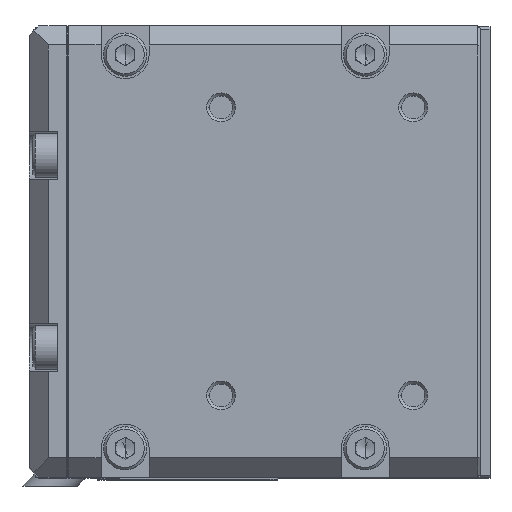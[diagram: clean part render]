
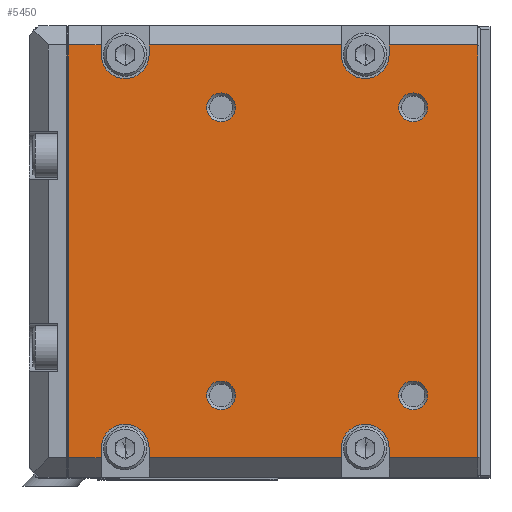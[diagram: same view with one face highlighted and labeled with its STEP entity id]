
A CAD part, top view. The second image highlights one B-rep face of the part: STEP entity #5450.
In plain terms, the highlighted planar face has unit normal (0, 0, 1).
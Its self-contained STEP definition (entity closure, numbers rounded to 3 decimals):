
#2330=CARTESIAN_POINT('',(42.7,-4.,50.2));
#2340=VERTEX_POINT('',#2330);
#2700=CARTESIAN_POINT('',(33.5,-4.,50.2));
#2710=VERTEX_POINT('',#2700);
#2740=CARTESIAN_POINT('',(33.5,-4.,50.2));
#2750=DIRECTION('',(1.,0.,0.));
#2760=VECTOR('',#2750,1.);
#2770=LINE('',#2740,#2760);
#2780=EDGE_CURVE('',#2710,#2340,#2770,.T.);
#3100=CARTESIAN_POINT('',(33.5,-3.,50.2));
#3110=VERTEX_POINT('',#3100);
#3140=CARTESIAN_POINT('',(33.5,-4.,50.2));
#3150=DIRECTION('',(0.,1.,0.));
#3160=VECTOR('',#3150,1.);
#3170=LINE('',#3140,#3160);
#3180=EDGE_CURVE('',#2710,#3110,#3170,.T.);
#3300=CARTESIAN_POINT('',(43.,0.,50.2));
#3310=DIRECTION('',(0.,0.,1.));
#3320=DIRECTION('',(-1.,0.,0.));
#3330=AXIS2_PLACEMENT_3D('',#3300,#3310,#3320);
#3340=PLANE('',#3330);
#3350=ORIENTED_EDGE('',*,*,#2780,.T.);
#3360=ORIENTED_EDGE('',*,*,#3180,.F.);
#3370=CARTESIAN_POINT('',(31.,-3.,50.2));
#3380=DIRECTION('',(-0.,0.,-1.));
#3390=DIRECTION('',(-1.,0.,0.));
#3400=AXIS2_PLACEMENT_3D('',#3370,#3380,#3390);
#3410=CIRCLE('',#3400,2.5);
#3420=CARTESIAN_POINT('',(28.5,-3.,50.2));
#3430=VERTEX_POINT('',#3420);
#3440=EDGE_CURVE('',#3430,#3110,#3410,.T.);
#3450=ORIENTED_EDGE('',*,*,#3440,.T.);
#3460=CARTESIAN_POINT('',(28.5,-3.,50.2));
#3470=DIRECTION('',(0.,-1.,0.));
#3480=VECTOR('',#3470,1.);
#3490=LINE('',#3460,#3480);
#3500=CARTESIAN_POINT('',(28.5,-4.,50.2));
#3510=VERTEX_POINT('',#3500);
#3520=EDGE_CURVE('',#3430,#3510,#3490,.T.);
#3530=ORIENTED_EDGE('',*,*,#3520,.F.);
#3540=CARTESIAN_POINT('',(8.5,-4.,50.2));
#3550=DIRECTION('',(1.,0.,0.));
#3560=VECTOR('',#3550,1.);
#3570=LINE('',#3540,#3560);
#3580=CARTESIAN_POINT('',(8.5,-4.,50.2));
#3590=VERTEX_POINT('',#3580);
#3600=EDGE_CURVE('',#3590,#3510,#3570,.T.);
#3610=ORIENTED_EDGE('',*,*,#3600,.T.);
#3620=CARTESIAN_POINT('',(8.5,-4.,50.2));
#3630=DIRECTION('',(0.,1.,0.));
#3640=VECTOR('',#3630,1.);
#3650=LINE('',#3620,#3640);
#3660=CARTESIAN_POINT('',(8.5,-3.,50.2));
#3670=VERTEX_POINT('',#3660);
#3680=EDGE_CURVE('',#3590,#3670,#3650,.T.);
#3690=ORIENTED_EDGE('',*,*,#3680,.F.);
#3700=CARTESIAN_POINT('',(6.,-3.,50.2));
#3710=DIRECTION('',(-0.,0.,-1.));
#3720=DIRECTION('',(-1.,0.,0.));
#3730=AXIS2_PLACEMENT_3D('',#3700,#3710,#3720);
#3740=CIRCLE('',#3730,2.5);
#3750=CARTESIAN_POINT('',(3.5,-3.,50.2));
#3760=VERTEX_POINT('',#3750);
#3770=EDGE_CURVE('',#3760,#3670,#3740,.T.);
#3780=ORIENTED_EDGE('',*,*,#3770,.T.);
#3790=CARTESIAN_POINT('',(3.5,-3.,50.2));
#3800=DIRECTION('',(0.,-1.,0.));
#3810=VECTOR('',#3800,1.);
#3820=LINE('',#3790,#3810);
#3830=CARTESIAN_POINT('',(3.5,-4.,50.2));
#3840=VERTEX_POINT('',#3830);
#3850=EDGE_CURVE('',#3760,#3840,#3820,.T.);
#3860=ORIENTED_EDGE('',*,*,#3850,.F.);
#3870=CARTESIAN_POINT('',(0.1,-4.,50.2));
#3880=DIRECTION('',(1.,0.,0.));
#3890=VECTOR('',#3880,1.);
#3900=LINE('',#3870,#3890);
#3910=CARTESIAN_POINT('',(0.1,-4.,50.2));
#3920=VERTEX_POINT('',#3910);
#3930=EDGE_CURVE('',#3920,#3840,#3900,.T.);
#3940=ORIENTED_EDGE('',*,*,#3930,.T.);
#3950=CARTESIAN_POINT('',(0.1,39.,50.2));
#3960=DIRECTION('',(0.,-1.,0.));
#3970=VECTOR('',#3960,1.);
#3980=LINE('',#3950,#3970);
#3990=CARTESIAN_POINT('',(0.1,39.,50.2));
#4000=VERTEX_POINT('',#3990);
#4010=EDGE_CURVE('',#4000,#3920,#3980,.T.);
#4020=ORIENTED_EDGE('',*,*,#4010,.T.);
#4030=CARTESIAN_POINT('',(3.5,39.,50.2));
#4040=DIRECTION('',(-1.,0.,0.));
#4050=VECTOR('',#4040,1.);
#4060=LINE('',#4030,#4050);
#4070=CARTESIAN_POINT('',(3.5,39.,50.2));
#4080=VERTEX_POINT('',#4070);
#4090=EDGE_CURVE('',#4080,#4000,#4060,.T.);
#4100=ORIENTED_EDGE('',*,*,#4090,.T.);
#4110=CARTESIAN_POINT('',(3.5,39.,50.2));
#4120=DIRECTION('',(0.,-1.,0.));
#4130=VECTOR('',#4120,1.);
#4140=LINE('',#4110,#4130);
#4150=CARTESIAN_POINT('',(3.5,38.,50.2));
#4160=VERTEX_POINT('',#4150);
#4170=EDGE_CURVE('',#4080,#4160,#4140,.T.);
#4180=ORIENTED_EDGE('',*,*,#4170,.F.);
#4190=CARTESIAN_POINT('',(6.,38.,50.2));
#4200=DIRECTION('',(0.,0.,-1.));
#4210=DIRECTION('',(1.,0.,0.));
#4220=AXIS2_PLACEMENT_3D('',#4190,#4200,#4210);
#4230=CIRCLE('',#4220,2.5);
#4240=CARTESIAN_POINT('',(8.5,38.,50.2));
#4250=VERTEX_POINT('',#4240);
#4260=EDGE_CURVE('',#4250,#4160,#4230,.T.);
#4270=ORIENTED_EDGE('',*,*,#4260,.T.);
#4280=CARTESIAN_POINT('',(8.5,38.,50.2));
#4290=DIRECTION('',(0.,1.,0.));
#4300=VECTOR('',#4290,1.);
#4310=LINE('',#4280,#4300);
#4320=CARTESIAN_POINT('',(8.5,39.,50.2));
#4330=VERTEX_POINT('',#4320);
#4340=EDGE_CURVE('',#4250,#4330,#4310,.T.);
#4350=ORIENTED_EDGE('',*,*,#4340,.F.);
#4360=CARTESIAN_POINT('',(28.5,39.,50.2));
#4370=DIRECTION('',(-1.,0.,0.));
#4380=VECTOR('',#4370,1.);
#4390=LINE('',#4360,#4380);
#4400=CARTESIAN_POINT('',(28.5,39.,50.2));
#4410=VERTEX_POINT('',#4400);
#4420=EDGE_CURVE('',#4410,#4330,#4390,.T.);
#4430=ORIENTED_EDGE('',*,*,#4420,.T.);
#4440=CARTESIAN_POINT('',(28.5,39.,50.2));
#4450=DIRECTION('',(0.,-1.,0.));
#4460=VECTOR('',#4450,1.);
#4470=LINE('',#4440,#4460);
#4480=CARTESIAN_POINT('',(28.5,38.,50.2));
#4490=VERTEX_POINT('',#4480);
#4500=EDGE_CURVE('',#4410,#4490,#4470,.T.);
#4510=ORIENTED_EDGE('',*,*,#4500,.F.);
#4520=CARTESIAN_POINT('',(31.,38.,50.2));
#4530=DIRECTION('',(0.,0.,-1.));
#4540=DIRECTION('',(1.,0.,0.));
#4550=AXIS2_PLACEMENT_3D('',#4520,#4530,#4540);
#4560=CIRCLE('',#4550,2.5);
#4570=CARTESIAN_POINT('',(33.5,38.,50.2));
#4580=VERTEX_POINT('',#4570);
#4590=EDGE_CURVE('',#4580,#4490,#4560,.T.);
#4600=ORIENTED_EDGE('',*,*,#4590,.T.);
#4610=CARTESIAN_POINT('',(33.5,38.,50.2));
#4620=DIRECTION('',(0.,1.,0.));
#4630=VECTOR('',#4620,1.);
#4640=LINE('',#4610,#4630);
#4650=CARTESIAN_POINT('',(33.5,39.,50.2));
#4660=VERTEX_POINT('',#4650);
#4670=EDGE_CURVE('',#4580,#4660,#4640,.T.);
#4680=ORIENTED_EDGE('',*,*,#4670,.F.);
#4690=CARTESIAN_POINT('',(42.7,39.,50.2));
#4700=DIRECTION('',(-1.,0.,0.));
#4710=VECTOR('',#4700,1.);
#4720=LINE('',#4690,#4710);
#4730=CARTESIAN_POINT('',(42.7,39.,50.2));
#4740=VERTEX_POINT('',#4730);
#4750=EDGE_CURVE('',#4740,#4660,#4720,.T.);
#4760=ORIENTED_EDGE('',*,*,#4750,.T.);
#4770=CARTESIAN_POINT('',(42.7,39.,50.2));
#4780=DIRECTION('',(0.,-1.,0.));
#4790=VECTOR('',#4780,1.);
#4800=LINE('',#4770,#4790);
#4810=EDGE_CURVE('',#4740,#2340,#4800,.T.);
#4820=ORIENTED_EDGE('',*,*,#4810,.F.);
#4830=EDGE_LOOP('',(#4820,#4760,#4680,#4600,#4510,#4430,#4350,#4270,
#4180,#4100,#4020,#3940,#3860,#3780,#3690,#3610,#3530,#3450,#3360,#3350)
);
#4840=FACE_OUTER_BOUND('',#4830,.T.);
#4850=CARTESIAN_POINT('',(16.,2.5,50.2));
#4860=DIRECTION('',(0.,0.,-1.));
#4870=DIRECTION('',(1.,0.,0.));
#4880=AXIS2_PLACEMENT_3D('',#4850,#4860,#4870);
#4890=CIRCLE('',#4880,1.5);
#4900=CARTESIAN_POINT('',(14.5,2.5,50.2));
#4910=VERTEX_POINT('',#4900);
#4920=CARTESIAN_POINT('',(17.5,2.5,50.2));
#4930=VERTEX_POINT('',#4920);
#4940=EDGE_CURVE('',#4910,#4930,#4890,.T.);
#4950=ORIENTED_EDGE('',*,*,#4940,.T.);
#4960=EDGE_CURVE('',#4930,#4910,#4890,.T.);
#4970=ORIENTED_EDGE('',*,*,#4960,.T.);
#4980=EDGE_LOOP('',(#4970,#4950));
#4990=FACE_BOUND('',#4980,.T.);
#5000=CARTESIAN_POINT('',(36.,2.5,50.2));
#5010=DIRECTION('',(0.,0.,-1.));
#5020=DIRECTION('',(1.,0.,0.));
#5030=AXIS2_PLACEMENT_3D('',#5000,#5010,#5020);
#5040=CIRCLE('',#5030,1.5);
#5050=CARTESIAN_POINT('',(37.5,2.5,50.2));
#5060=VERTEX_POINT('',#5050);
#5070=CARTESIAN_POINT('',(34.5,2.5,50.2));
#5080=VERTEX_POINT('',#5070);
#5090=EDGE_CURVE('',#5060,#5080,#5040,.T.);
#5100=ORIENTED_EDGE('',*,*,#5090,.T.);
#5110=EDGE_CURVE('',#5080,#5060,#5040,.T.);
#5120=ORIENTED_EDGE('',*,*,#5110,.T.);
#5130=EDGE_LOOP('',(#5120,#5100));
#5140=FACE_BOUND('',#5130,.T.);
#5150=CARTESIAN_POINT('',(36.,32.5,50.2));
#5160=DIRECTION('',(0.,0.,-1.));
#5170=DIRECTION('',(1.,0.,0.));
#5180=AXIS2_PLACEMENT_3D('',#5150,#5160,#5170);
#5190=CIRCLE('',#5180,1.5);
#5200=CARTESIAN_POINT('',(34.5,32.5,50.2));
#5210=VERTEX_POINT('',#5200);
#5220=CARTESIAN_POINT('',(37.5,32.5,50.2));
#5230=VERTEX_POINT('',#5220);
#5240=EDGE_CURVE('',#5210,#5230,#5190,.T.);
#5250=ORIENTED_EDGE('',*,*,#5240,.T.);
#5260=EDGE_CURVE('',#5230,#5210,#5190,.T.);
#5270=ORIENTED_EDGE('',*,*,#5260,.T.);
#5280=EDGE_LOOP('',(#5270,#5250));
#5290=FACE_BOUND('',#5280,.T.);
#5300=CARTESIAN_POINT('',(16.,32.5,50.2));
#5310=DIRECTION('',(0.,0.,-1.));
#5320=DIRECTION('',(1.,0.,0.));
#5330=AXIS2_PLACEMENT_3D('',#5300,#5310,#5320);
#5340=CIRCLE('',#5330,1.5);
#5350=CARTESIAN_POINT('',(17.5,32.5,50.2));
#5360=VERTEX_POINT('',#5350);
#5370=CARTESIAN_POINT('',(14.5,32.5,50.2));
#5380=VERTEX_POINT('',#5370);
#5390=EDGE_CURVE('',#5360,#5380,#5340,.T.);
#5400=ORIENTED_EDGE('',*,*,#5390,.T.);
#5410=EDGE_CURVE('',#5380,#5360,#5340,.T.);
#5420=ORIENTED_EDGE('',*,*,#5410,.T.);
#5430=EDGE_LOOP('',(#5420,#5400));
#5440=FACE_BOUND('',#5430,.T.);
#5450=ADVANCED_FACE('',(#4840,#4990,#5140,#5290,#5440),#3340,.T.);
